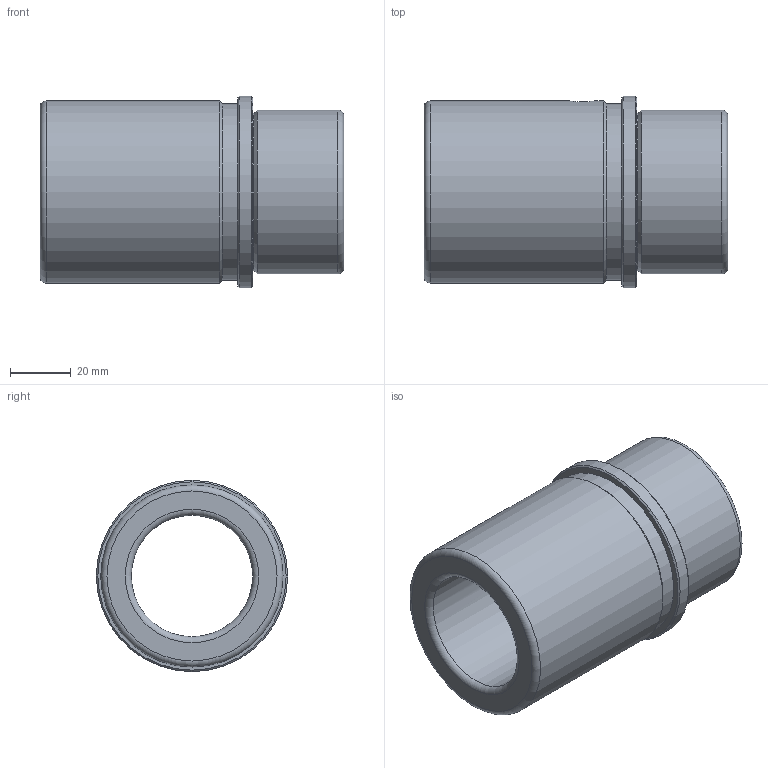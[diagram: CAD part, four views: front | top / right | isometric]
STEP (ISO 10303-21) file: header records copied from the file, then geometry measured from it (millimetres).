
FILE_DESCRIPTION( ( 'STEP AP214' ), '1' );
FILE_NAME( 'p:/temp/worker_27/temp/exporttempdir_4504_228_iCjb0/format_0/WZ - 4055 40 x 100.stp', '2020-12-04T19:47:11', ( 'License CC BY-ND 4.0' ), ( 'CADENAS' ), ' ', 'PARTsolutions', ' ' );
FILE_SCHEMA( ( 'AUTOMOTIVE_DESIGN { 1 0 10303 214 1 1 1 1 }' ) );
Length unit declared in the file: millimetre
Products named in the file (1): _WZ - 4055 40 x 100
Bounding box: 100 x 63 x 63 mm (x, y, z)
Volume: 139790.1 mm3; surface area: 34826.8 mm2
Topology: 1 solids, 1 shells, 21 faces, 38 edges, 22 vertices
Faces by surface type: cylinder 7, cone 5, plane 5, torus 4
Full cylindrical faces by diameter (mm): 8.376 x1, 40 x1, 52 x1, 54 x1, 58 x1, 60 x1, 63 x1
Entity records: 750 total; most frequent: CARTESIAN_POINT 196, DIRECTION 84, EDGE_LOOP 44, ORIENTED_EDGE 44, AXIS2_PLACEMENT_3D 42, FACE_OUTER_BOUND 32, EDGE_CURVE 22, VERTEX_POINT 22
